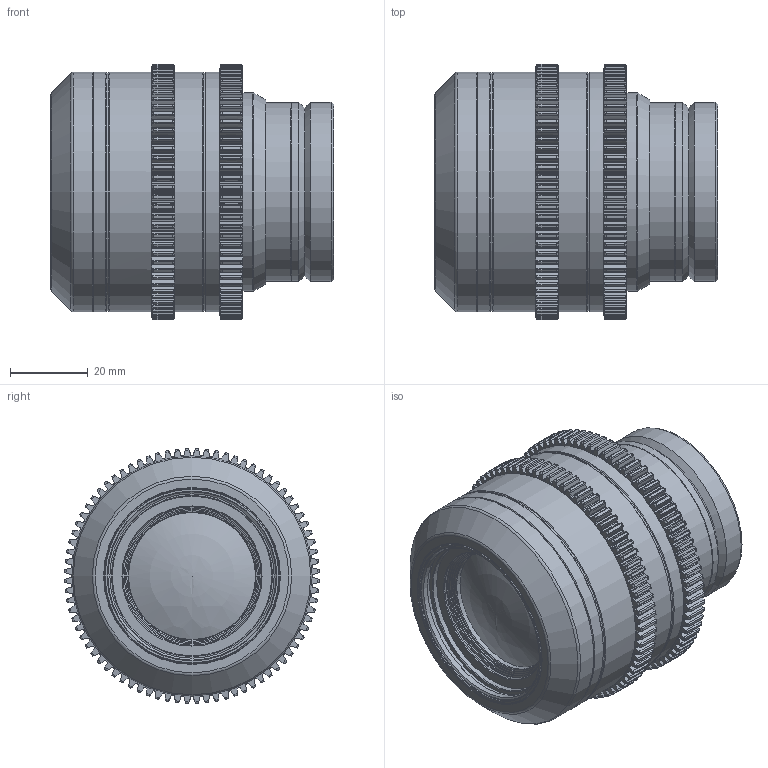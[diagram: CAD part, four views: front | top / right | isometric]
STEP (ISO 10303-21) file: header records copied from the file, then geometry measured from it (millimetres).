
FILE_DESCRIPTION(/* description */ (''),/* implementation_level */ '2;1');
FILE_NAME(/* name */ '0703_114_000_20_AP_a.stp',/* time_stamp */ '2012-11-21T08:53:41+01:00',/* author */ (''),/* organization */ (''),/* preprocessor_version */ 'ST-DEVELOPER v11',/* originating_system */ 'SIEMENS UGS NX 6.0',/* authorisation */ '');
FILE_SCHEMA (('AUTOMOTIVE_DESIGN { 1 0 10303 214 1 1 1 1 }'));
Length unit declared in the file: millimetre
Products named in the file (1): jean0AD6ttxs
Bounding box: 72.8 x 65.57 x 65.57 mm (x, y, z)
Volume: 168191.3 mm3; surface area: 23875 mm2
Topology: 1 solids, 1 shells, 1687 faces, 4328 edges, 2652 vertices
Faces by surface type: extrusion 960, cylinder 343, torus 323, cone 48, plane 11, revolution 2
Full cylindrical faces by diameter (mm): 32.6 x2, 36 x2, 41 x2, 42.188 x2, 43.2 x4, 45.8 x1, 46 x2, 51 x1, 61.2 x2, 61.6 x5
Entity records: 86521 total; most frequent: CARTESIAN_POINT 37388, ORIENTED_EDGE 8488, DIRECTION 5782, EDGE_CURVE 4244, B_SPLINE_CURVE_WITH_KNOTS 2882, VERTEX_POINT 2646, VECTOR 2240, EDGE_LOOP 1772
